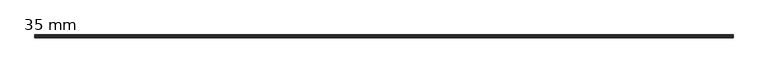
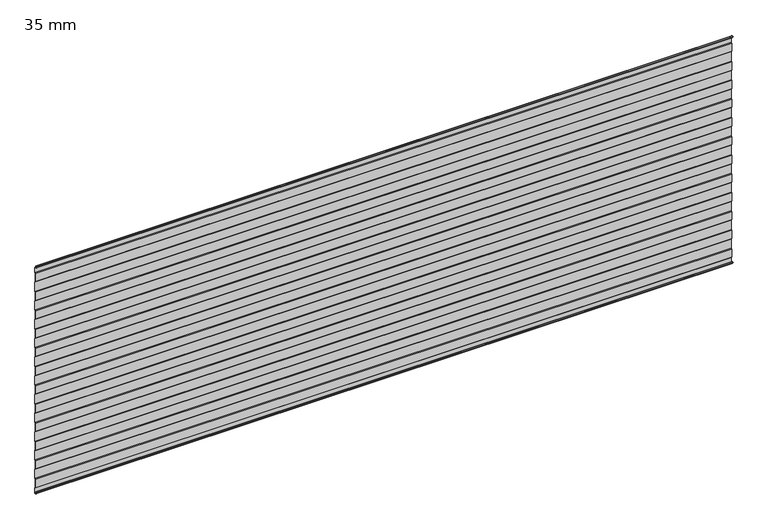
"""IFC4 building model written with IfcOpenShell, lengths in millimetres: plate geometry, HIANSA PANEL - H20.F02.002-PANELES DE FACHADA HORIZONTAL - PANEL PERFILADO - Panel de Muro Cortina : 35 mm."""

from ifc_helpers import new_model, si_unit, point, frame, frame_2d, origin, place, context, project, spatial, polyline, circle_curve, trimmed, segment, composite_curve, outline, extrude, source, transform, mapped, element, save


def plate_35_mm_4b737334(model_context):
    return source(origin(), model_context, "Body", "SweptSolid", [
        extrude(outline(composite_curve([segment(polyline([(-0.9999995, 43.9677319), (5e-07, 40.9677319), (5e-07, 15.9677319)]), True, "CONTINUOUS"), segment(trimmed(circle_curve(frame_2d((-1.4999995, 15.9677319)), 1.5), [point((5e-07, 15.9677319))], [point((-1.4999995, 14.4677319))], False, "CARTESIAN"), True, "CONTINUOUS"), segment(polyline([(-1.4999995, 14.4677319), (-4.4999995, 14.4677319)]), True, "CONTINUOUS"), segment(trimmed(circle_curve(frame_2d((-4.4999995, 15.9677319)), 1.5), [point((-4.4999995, 14.4677319))], [point((-5.9999995, 15.9677319))], False, "CARTESIAN"), True, "CONTINUOUS"), segment(polyline([(-5.9999995, 15.9677319), (-5.9999995, 23.5810465)]), True, "CONTINUOUS"), segment(trimmed(circle_curve(frame_2d((-7.5399995, 23.5810465)), 1.54), [point((-5.9999995, 23.5810465))], [point((-7.5399995, 25.1210465))], True, "CARTESIAN"), True, "CONTINUOUS"), segment(polyline([(-7.5399995, 25.1210465), (-13.7002592, 25.1210465), (-12.9205789, 25.6210465), (-7.5400053, 25.6210465)]), True, "CONTINUOUS"), segment(trimmed(circle_curve(frame_2d((-7.5400053, 23.5810465)), 2.04), [point((-7.5400053, 25.6210465))], [point((-5.5000053, 23.5810465))], False, "CARTESIAN"), True, "CONTINUOUS"), segment(polyline([(-5.5000053, 23.5810465), (-5.5000053, 15.9677319)]), True, "CONTINUOUS"), segment(trimmed(circle_curve(frame_2d((-4.4999995, 15.9677319)), 1.0000057), [point((-5.5000053, 15.9677319))], [point((-4.4999976, 14.9677262))], True, "CARTESIAN"), True, "CONTINUOUS"), segment(polyline([(-4.4999976, 14.9677262), (-1.4999976, 14.9677319)]), True, "CONTINUOUS"), segment(trimmed(circle_curve(frame_2d((-1.4999995, 15.9677319)), 1.0), [point((-1.4999976, 14.9677319))], [point((-0.4999995, 15.9677319))], True, "CARTESIAN"), True, "CONTINUOUS"), segment(polyline([(-0.4999995, 15.9677319), (-0.4999995, 40.8865931), (-1.4999995, 43.8865931), (-1.4999995, 84.0488708), (-0.4999995, 87.0488708), (-0.4999995, 131.8865931), (-1.4999995, 134.8865931), (-1.4999995, 175.0488708), (-0.4999995, 178.0488708), (-0.4999995, 222.8865931), (-1.4999995, 225.8865931), (-1.4999995, 266.0488708), (-0.4999995, 269.0488708), (-0.4999995, 313.8865931), (-1.4999995, 316.8865931), (-1.4999995, 357.0488708), (-0.4999995, 360.0488708), (-0.4999995, 404.8865931), (-1.4999995, 407.8865931), (-1.4999995, 448.0488708), (-0.4999995, 451.0488708), (-0.4999995, 495.8865931), (-1.4999995, 498.8865931), (-1.4999995, 539.0488708), (-0.4999995, 542.0488708), (-0.4999995, 586.8865931), (-1.4999995, 589.8865931), (-1.4999995, 630.0488708), (-0.4999995, 633.0488708), (-0.4999995, 677.8865931), (-1.4999995, 680.8865931), (-1.4999995, 721.0488708), (-0.4999995, 724.0488708), (-0.4999995, 768.8865931), (-1.4999995, 771.8865931), (-1.4999995, 812.0488708), (-0.4999995, 815.0488708), (-0.4999995, 859.8865931), (-1.4999995, 862.8865931), (-1.4999995, 903.0488708), (-0.4999995, 906.0488708), (-0.4999995, 950.8865931), (-1.4999995, 953.8865931), (-1.4999995, 994.0488708), (-0.4999995, 997.0488708), (-0.4999995, 1041.8865931), (-1.4999995, 1044.8865931), (-1.4999995, 1085.0488708), (-0.4999995, 1088.0488708), (-0.4999995, 1112.9277319)]), True, "CONTINUOUS"), segment(trimmed(circle_curve(frame_2d((-1.4999995, 1112.9277319)), 1.0), [point((-0.4999995, 1112.9277319))], [point((-1.4999995, 1113.9277319))], True, "CARTESIAN"), True, "CONTINUOUS"), segment(polyline([(-1.4999995, 1113.9277319), (-4.7459995, 1113.9277319)]), True, "CONTINUOUS"), segment(trimmed(circle_curve(frame_2d((-4.7459995, 1115.9317319)), 2.004), [point((-4.7459995, 1113.9277319))], [point((-6.7499995, 1115.9317319))], False, "CARTESIAN"), True, "CONTINUOUS"), segment(polyline([(-6.7499995, 1115.9317319), (-6.7499995, 1122.0810465)]), True, "CONTINUOUS"), segment(trimmed(circle_curve(frame_2d((-7.7499995, 1122.0810465)), 1.0), [point((-6.7499995, 1122.0810465))], [point((-7.7499995, 1123.0810465))], True, "CARTESIAN"), True, "CONTINUOUS"), segment(polyline([(-7.7499995, 1123.0810465), (-12.9009472, 1123.0810465), (-13.7002592, 1123.5810465), (-7.7500053, 1123.5810465)]), True, "CONTINUOUS"), segment(trimmed(circle_curve(frame_2d((-7.7500053, 1122.0810465)), 1.5), [point((-7.7500053, 1123.5810465))], [point((-6.2500053, 1122.0810465))], False, "CARTESIAN"), True, "CONTINUOUS"), segment(polyline([(-6.2500053, 1122.0810465), (-6.2500053, 1115.931727)]), True, "CONTINUOUS"), segment(trimmed(circle_curve(frame_2d((-4.7460053, 1115.931727)), 1.504), [point((-6.2500053, 1115.931727))], [point((-4.746003, 1114.427727))], True, "CARTESIAN"), True, "CONTINUOUS"), segment(polyline([(-4.746003, 1114.427727), (-1.5000018, 1114.4277319)]), True, "CONTINUOUS"), segment(trimmed(circle_curve(frame_2d((-1.4999995, 1112.9277319)), 1.5), [point((-1.5000018, 1114.4277319))], [point((5e-07, 1112.9277319))], False, "CARTESIAN"), True, "CONTINUOUS"), segment(polyline([(5e-07, 1112.9277319), (5e-07, 1087.9677319), (-0.9999995, 1084.9677319), (-0.9999995, 1044.9677319), (5e-07, 1041.9677319), (5e-07, 996.9677319), (-0.9999995, 993.9677319), (-0.9999995, 953.9677319), (5e-07, 950.9677319), (5e-07, 905.9677319), (-0.9999995, 902.9677319), (-0.9999995, 862.9677319), (5e-07, 859.9677319), (5e-07, 814.9677319), (-0.9999995, 811.9677319), (-0.9999995, 771.9677319), (5e-07, 768.9677319), (5e-07, 723.9677319), (-0.9999995, 720.9677319), (-0.9999995, 680.9677319), (5e-07, 677.9677319), (5e-07, 632.9677319), (-0.9999995, 629.9677319), (-0.9999995, 589.9677319), (5e-07, 586.9677319), (5e-07, 541.9677319), (-0.9999995, 538.9677319), (-0.9999995, 498.9677319), (5e-07, 495.9677319), (5e-07, 450.9677319), (-0.9999995, 447.9677319), (-0.9999995, 407.9677319), (5e-07, 404.9677319), (5e-07, 359.9677319), (-0.9999995, 356.9677319), (-0.9999995, 316.9677319), (5e-07, 313.9677319), (5e-07, 268.9677319), (-0.9999995, 265.9677319), (-0.9999995, 225.9677319), (5e-07, 222.9677319), (5e-07, 177.9677319), (-0.9999995, 174.9677319), (-0.9999995, 134.9677319), (5e-07, 131.9677319), (5e-07, 86.9677319), (-0.9999995, 83.9677319), (-0.9999995, 43.9677319)]), True, "CONTINUOUS")], self_intersect=False)), frame((-1600.0, 0.0, 0.0), z_axis=(1.0, 0.0, 0.0), x_axis=(0.0, 1.0, 0.0)), (0.0, 0.0, 1.0), 3200.0),
    ])


if __name__ == "__main__":
    model = new_model("IFC4")
    model_context = context("Model", 3, world=origin())
    ifc_project = project(units=[si_unit("LENGTHUNIT", "METRE", prefix="MILLI")], contexts=[model_context])
    site = spatial("IfcSite", under=ifc_project)
    building = spatial("IfcBuilding", under=site)
    placement = place(None, origin())
    plate_35_mm_shape = plate_35_mm_4b737334(model_context)
    element("IfcPlate", 1, ObjectType="HIANSA PANEL - H20.F02.002-PANELES DE FACHADA HORIZONTAL - PANEL PERFILADO - Panel de Muro Cortina : 35 mm", at=placement, inside=building, context=model_context, shape_type="MappedRepresentation", body=[
        mapped(plate_35_mm_shape, transform((0.0, 0.0, 0.0), x_axis=(1.0, 0.0, 0.0), y_axis=(0.0, 1.0, 0.0), z_axis=(0.0, 0.0, 1.0))),
    ])
    save(model, "model.ifc")
